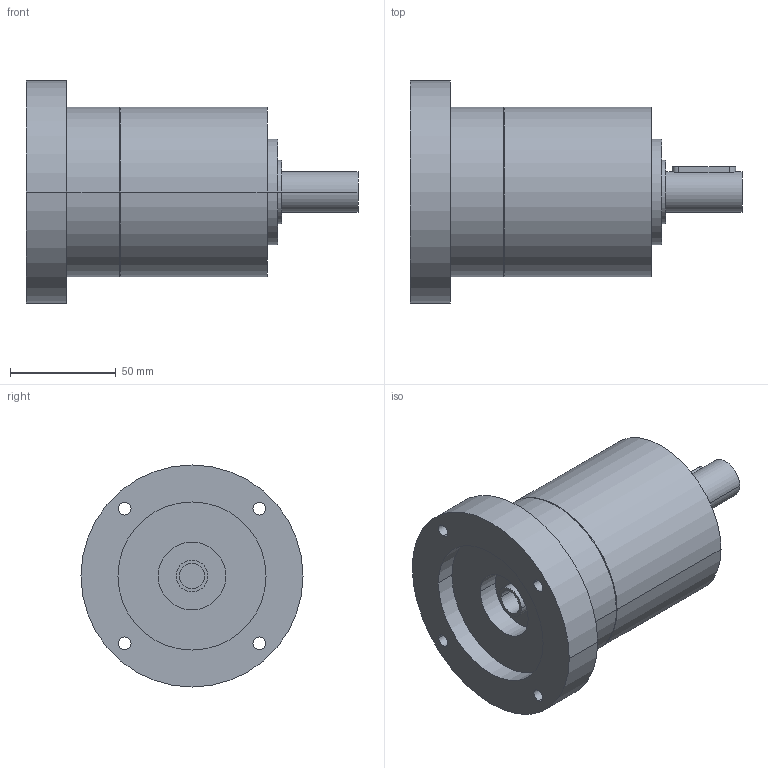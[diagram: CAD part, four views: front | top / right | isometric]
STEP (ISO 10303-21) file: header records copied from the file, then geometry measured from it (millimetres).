
FILE_DESCRIPTION(('CoCreate Modeling STEP Export'),'2;1');
FILE_NAME('GPR100_ig-3-4-5-6_19_B14_12_P14.stp','2014-08-26T10:06:01',(''),(''),'CoCreate Modeling STEP processor for AP214 (Solid Model)','CoCreate Modeling 16.00C 25-Feb-2009 (C) Parametric Technology GmbH','');
FILE_SCHEMA(('AUTOMOTIVE_DESIGN { 1 0 10303 214 1 1 1 1 }'));
Length unit declared in the file: millimetre
Products named in the file (2): GPR100_ig-3-4-5-6_19_B14_12_P14
Assembly tree (1 placements, depth 2):
  GPR100_ig-3-4-5-6_19_B14_12_P14
    GPR100_ig-3-4-5-6_19_B14_12_P14
Bounding box: 157 x 105 x 105 mm (x, y, z)
Volume: 614749.9 mm3; surface area: 58035.1 mm2
Topology: 1 solids, 1 shells, 76 faces, 201 edges, 143 vertices
Faces by surface type: cylinder 48, plane 22, cone 6
Entity records: 2017 total; most frequent: ORIENTED_EDGE 398, CARTESIAN_POINT 368, DIRECTION 262, EDGE_CURVE 199, VERTEX_POINT 143, EDGE_LOOP 102, AXIS2_PLACEMENT_3D 101, FACE_OUTER_BOUND 76
